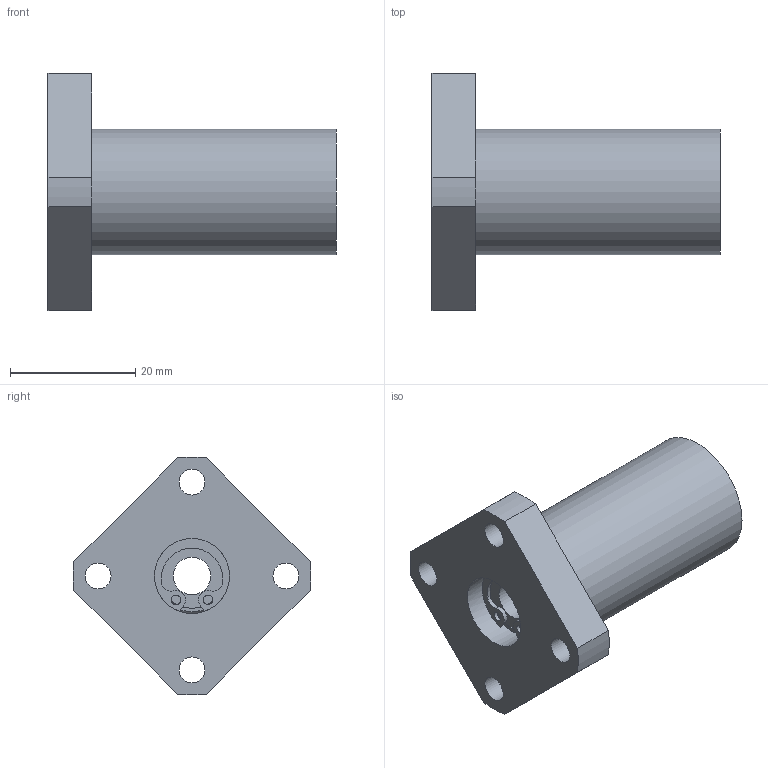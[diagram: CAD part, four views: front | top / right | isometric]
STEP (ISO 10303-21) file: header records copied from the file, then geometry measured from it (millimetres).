
FILE_DESCRIPTION((''),'2;1');
FILE_NAME('D:\製品 (図面)\カタログ用3D\リニアベアリング関連(改)\STEP形式\LFWK\LFWK6.stp','2010-01-22T15:50:14',('Tsuchiya'),(''),'Autodesk Inventor 10','Autodesk Inventor 10','');
FILE_SCHEMA(('AUTOMOTIVE_DESIGN { 1 0 10303 214 1 1 1 1 }'));
Length unit declared in the file: millimetre
Products named in the file (1): LFWK6
Bounding box: 46 x 37.97 x 37.97 mm (x, y, z)
Volume: 16035.7 mm3; surface area: 7021.3 mm2
Topology: 1 solids, 6 shells, 78 faces, 196 edges, 125 vertices
Faces by surface type: bspline 29, cylinder 28, plane 21
Full cylindrical faces by diameter (mm): 1.5 x2, 4.134 x4, 6 x1, 10.3 x2, 11.5 x2, 12 x7, 20 x1
Entity records: 2374 total; most frequent: CARTESIAN_POINT 670, DIRECTION 350, ORIENTED_EDGE 298, AXIS2_PLACEMENT_3D 151, EDGE_CURVE 149, EDGE_LOOP 136, VERTEX_POINT 109, CIRCLE 101
